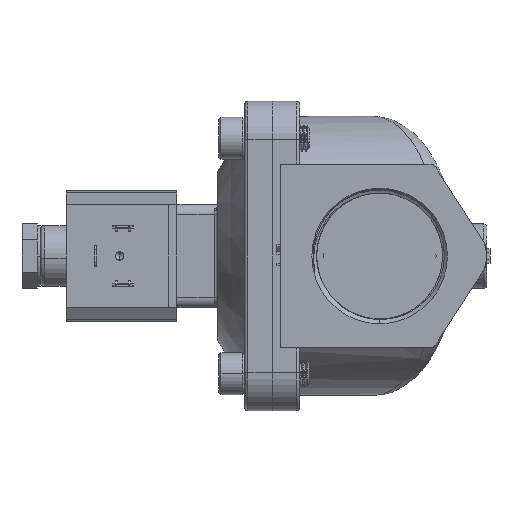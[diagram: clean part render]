
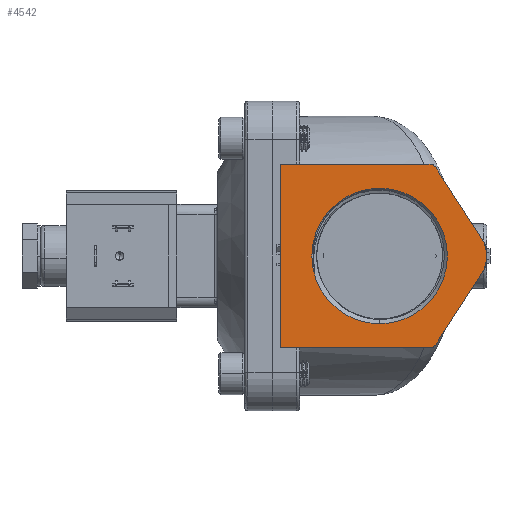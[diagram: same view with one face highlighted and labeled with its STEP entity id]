
A CAD part, left-side view. The second image highlights one B-rep face of the part: STEP entity #4542.
In plain terms, the highlighted planar face has unit normal (-1, 0, 0).
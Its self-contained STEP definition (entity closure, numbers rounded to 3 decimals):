
#46 = CARTESIAN_POINT ( 'NONE',  ( -65.5, -48.911, -28.5 ) ) ;
#398 = VERTEX_POINT ( 'NONE', #20958 ) ;
#409 = ORIENTED_EDGE ( 'NONE', *, *, #18780, .T. ) ;
#574 = ORIENTED_EDGE ( 'NONE', *, *, #2088, .T. ) ;
#602 = EDGE_CURVE ( 'NONE', #19153, #26012, #7466, .T. ) ;
#641 = EDGE_CURVE ( 'NONE', #24421, #27099, #726, .T. ) ;
#687 = VERTEX_POINT ( 'NONE', #27948 ) ;
#726 = LINE ( 'NONE', #10418, #11518 ) ;
#1047 = AXIS2_PLACEMENT_3D ( 'NONE', #9967, #27250, #3141 ) ;
#1440 = CARTESIAN_POINT ( 'NONE',  ( -65.5, -64.901, -5.425 ) ) ;
#2019 = VERTEX_POINT ( 'NONE', #22509 ) ;
#2088 = EDGE_CURVE ( 'NONE', #27812, #2019, #27780, .T. ) ;
#2239 = DIRECTION ( 'NONE',  ( 1., 0., 0. ) ) ;
#2559 = CIRCLE ( 'NONE', #21274, 2. ) ;
#3141 = DIRECTION ( 'NONE',  ( 0., 0., 1. ) ) ;
#4312 = CARTESIAN_POINT ( 'NONE',  ( -65.5, -33.3, 0. ) ) ;
#4542 = ADVANCED_FACE ( 'Defeatured_0_184', ( #18450, #30695 ), #28157, .T. ) ;
#5258 = DIRECTION ( 'NONE',  ( 0., 1., 0. ) ) ;
#5495 = AXIS2_PLACEMENT_3D ( 'NONE', #28320, #11819, #11670 ) ;
#5898 = LINE ( 'NONE', #20786, #20557 ) ;
#7383 = VERTEX_POINT ( 'NONE', #11213 ) ;
#7466 = CIRCLE ( 'NONE', #13033, 10. ) ;
#8176 = CARTESIAN_POINT ( 'NONE',  ( -65.5, -33.3, 21. ) ) ;
#8201 = VECTOR ( 'NONE', #18917, 1000. ) ;
#8559 = CARTESIAN_POINT ( 'NONE',  ( -65.5, -56.5, 0. ) ) ;
#9001 = ORIENTED_EDGE ( 'NONE', *, *, #10453, .T. ) ;
#9557 = CARTESIAN_POINT ( 'NONE',  ( -65.5, -64.901, 5.425 ) ) ;
#9967 = CARTESIAN_POINT ( 'NONE',  ( -65.5, -48.911, -26.5 ) ) ;
#10320 = CARTESIAN_POINT ( 'NONE',  ( -65.5, -64.901, 5.425 ) ) ;
#10418 = CARTESIAN_POINT ( 'NONE',  ( -65.5, -56.5, -28.5 ) ) ;
#10453 = EDGE_CURVE ( 'NONE', #7383, #19153, #5898, .T. ) ;
#10667 = DIRECTION ( 'NONE',  ( 0., -0.542, 0.84 ) ) ;
#11213 = CARTESIAN_POINT ( 'NONE',  ( -65.5, -50.591, -27.585 ) ) ;
#11394 = CARTESIAN_POINT ( 'NONE',  ( -65.5, -50.591, 27.585 ) ) ;
#11454 = EDGE_CURVE ( 'NONE', #2019, #27812, #30234, .T. ) ;
#11518 = VECTOR ( 'NONE', #20219, 1000. ) ;
#11670 = DIRECTION ( 'NONE',  ( 0., 0., 1. ) ) ;
#11819 = DIRECTION ( 'NONE',  ( -1., 0., 0. ) ) ;
#12037 = EDGE_CURVE ( 'NONE', #27099, #7383, #18768, .T. ) ;
#13033 = AXIS2_PLACEMENT_3D ( 'NONE', #8559, #20742, #18221 ) ;
#13400 = EDGE_LOOP ( 'NONE', ( #9001, #29332, #13849, #16113, #409, #30282, #18652, #31394 ) ) ;
#13849 = ORIENTED_EDGE ( 'NONE', *, *, #30342, .T. ) ;
#13927 = EDGE_CURVE ( 'NONE', #687, #24421, #24134, .T. ) ;
#14910 = LINE ( 'NONE', #9557, #22854 ) ;
#16113 = ORIENTED_EDGE ( 'NONE', *, *, #27624, .T. ) ;
#16330 = DIRECTION ( 'NONE',  ( 0., 0., 1. ) ) ;
#16620 = AXIS2_PLACEMENT_3D ( 'NONE', #28251, #27935, #16330 ) ;
#16662 = DIRECTION ( 'NONE',  ( 0., 0., 1. ) ) ;
#17594 = CARTESIAN_POINT ( 'NONE',  ( -65.5, -48.911, 26.5 ) ) ;
#18221 = DIRECTION ( 'NONE',  ( 0., 0., 1. ) ) ;
#18450 = FACE_OUTER_BOUND ( 'NONE', #13400, .T. ) ;
#18652 = ORIENTED_EDGE ( 'NONE', *, *, #641, .T. ) ;
#18768 = CIRCLE ( 'NONE', #1047, 2. ) ;
#18780 = EDGE_CURVE ( 'NONE', #398, #687, #22513, .T. ) ;
#18917 = DIRECTION ( 'NONE',  ( 0., 0., -1. ) ) ;
#19153 = VERTEX_POINT ( 'NONE', #1440 ) ;
#20219 = DIRECTION ( 'NONE',  ( 0., -1., 0. ) ) ;
#20557 = VECTOR ( 'NONE', #10667, 1000. ) ;
#20742 = DIRECTION ( 'NONE',  ( -1., 0., 0. ) ) ;
#20786 = CARTESIAN_POINT ( 'NONE',  ( -65.5, -50.591, -27.585 ) ) ;
#20958 = CARTESIAN_POINT ( 'NONE',  ( -65.5, -48.911, 28.5 ) ) ;
#21274 = AXIS2_PLACEMENT_3D ( 'NONE', #17594, #27450, #24411 ) ;
#22509 = CARTESIAN_POINT ( 'NONE',  ( -65.5, -33.3, -21. ) ) ;
#22513 = LINE ( 'NONE', #29851, #27717 ) ;
#22854 = VECTOR ( 'NONE', #28908, 1000. ) ;
#24134 = LINE ( 'NONE', #29234, #8201 ) ;
#24159 = EDGE_LOOP ( 'NONE', ( #574, #29791 ) ) ;
#24411 = DIRECTION ( 'NONE',  ( 0., 0., 1. ) ) ;
#24421 = VERTEX_POINT ( 'NONE', #27137 ) ;
#26012 = VERTEX_POINT ( 'NONE', #10320 ) ;
#26227 = VERTEX_POINT ( 'NONE', #11394 ) ;
#27099 = VERTEX_POINT ( 'NONE', #46 ) ;
#27137 = CARTESIAN_POINT ( 'NONE',  ( -65.5, -2.5, -28.5 ) ) ;
#27250 = DIRECTION ( 'NONE',  ( -1., 0., 0. ) ) ;
#27450 = DIRECTION ( 'NONE',  ( -1., 0., 0. ) ) ;
#27624 = EDGE_CURVE ( 'NONE', #26227, #398, #2559, .T. ) ;
#27717 = VECTOR ( 'NONE', #5258, 1000. ) ;
#27780 = CIRCLE ( 'NONE', #16620, 21. ) ;
#27812 = VERTEX_POINT ( 'NONE', #8176 ) ;
#27935 = DIRECTION ( 'NONE',  ( 1., 0., 0. ) ) ;
#27948 = CARTESIAN_POINT ( 'NONE',  ( -65.5, -2.5, 28.5 ) ) ;
#28157 = PLANE ( 'NONE',  #5495 ) ;
#28251 = CARTESIAN_POINT ( 'NONE',  ( -65.5, -33.3, 0. ) ) ;
#28320 = CARTESIAN_POINT ( 'NONE',  ( -65.5, -56.5, 0. ) ) ;
#28908 = DIRECTION ( 'NONE',  ( 0., 0.542, 0.84 ) ) ;
#29234 = CARTESIAN_POINT ( 'NONE',  ( -65.5, -2.5, 0. ) ) ;
#29332 = ORIENTED_EDGE ( 'NONE', *, *, #602, .T. ) ;
#29791 = ORIENTED_EDGE ( 'NONE', *, *, #11454, .T. ) ;
#29851 = CARTESIAN_POINT ( 'NONE',  ( -65.5, -56.5, 28.5 ) ) ;
#30234 = CIRCLE ( 'NONE', #31270, 21. ) ;
#30282 = ORIENTED_EDGE ( 'NONE', *, *, #13927, .T. ) ;
#30342 = EDGE_CURVE ( 'NONE', #26012, #26227, #14910, .T. ) ;
#30695 = FACE_BOUND ( 'NONE', #24159, .T. ) ;
#31270 = AXIS2_PLACEMENT_3D ( 'NONE', #4312, #2239, #16662 ) ;
#31394 = ORIENTED_EDGE ( 'NONE', *, *, #12037, .T. ) ;
